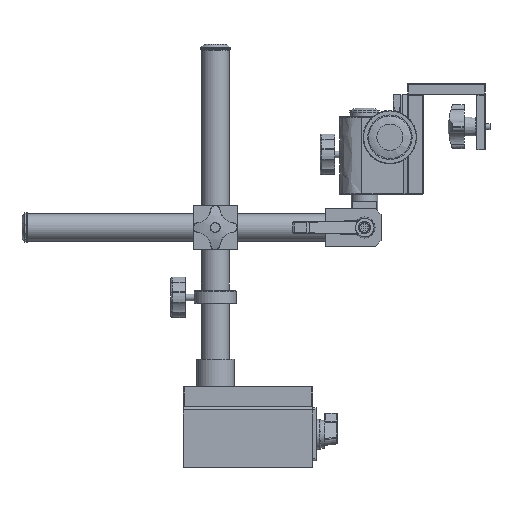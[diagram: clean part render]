
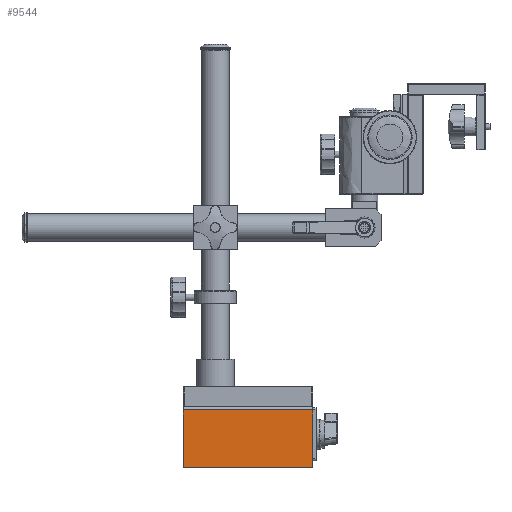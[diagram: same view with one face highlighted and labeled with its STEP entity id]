
A CAD part, left-side view. The second image highlights one B-rep face of the part: STEP entity #9544.
In plain terms, the highlighted planar face has unit normal (-1, 0, 0).
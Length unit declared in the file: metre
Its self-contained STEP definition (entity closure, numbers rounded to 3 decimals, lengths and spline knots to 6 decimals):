
#9544=ADVANCED_FACE('34:35582',(#28228),#28229,.T.);
#9882=EDGE_CURVE('34:35834',#28709,#28712,#28713,.T.);
#9924=EDGE_CURVE('34:35831',#28765,#28709,#28768,.T.);
#9954=EDGE_CURVE('34:35885',#28808,#28712,#28809,.T.);
#10038=EDGE_CURVE('34:35828',#28808,#28765,#28919,.T.);
#28228=FACE_OUTER_BOUND('',#53938,.T.);
#28229=PLANE('',#53939);
#28709=VERTEX_POINT('',#54702);
#28712=VERTEX_POINT('',#54706);
#28713=LINE('',#54707,#54708);
#28765=VERTEX_POINT('',#54796);
#28768=LINE('',#54801,#54802);
#28808=VERTEX_POINT('',#54866);
#28809=LINE('',#54867,#54868);
#28919=LINE('',#55045,#55046);
#53938=EDGE_LOOP('',(#143820,#143821,#143822,#143823));
#53939=AXIS2_PLACEMENT_3D('',#143824,#143825,#143826);
#54702=CARTESIAN_POINT('',(-0.025,0.08685,0.0523));
#54706=CARTESIAN_POINT('',(-0.025,-0.03025,0.0523));
#54707=CARTESIAN_POINT('',(-0.025,0.,0.0523));
#54708=VECTOR('',#144376,1.0);
#54796=CARTESIAN_POINT('',(-0.025,0.08685,0.0));
#54801=CARTESIAN_POINT('',(-0.025,0.08685,0.0));
#54802=VECTOR('',#144403,1.0);
#54866=CARTESIAN_POINT('',(-0.025,-0.03025,0.0));
#54867=CARTESIAN_POINT('',(-0.025,-0.03025,0.0));
#54868=VECTOR('',#144428,1.0);
#55045=CARTESIAN_POINT('',(-0.025,-0.03025,0.0));
#55046=VECTOR('',#144502,1.0);
#143820=ORIENTED_EDGE('',*,*,#9882,.F.);
#143821=ORIENTED_EDGE('',*,*,#9924,.F.);
#143822=ORIENTED_EDGE('',*,*,#10038,.F.);
#143823=ORIENTED_EDGE('',*,*,#9954,.T.);
#143824=CARTESIAN_POINT('',(-0.025,0.,0.0));
#143825=DIRECTION('',(-1.0,0.,0.0));
#143826=DIRECTION('',(0.0,0.0,1.0));
#144376=DIRECTION('',(0.,-1.0,0.0));
#144403=DIRECTION('',(0.0,-0.0,1.0));
#144428=DIRECTION('',(0.0,0.0,1.0));
#144502=DIRECTION('',(0.,1.0,0.0));
